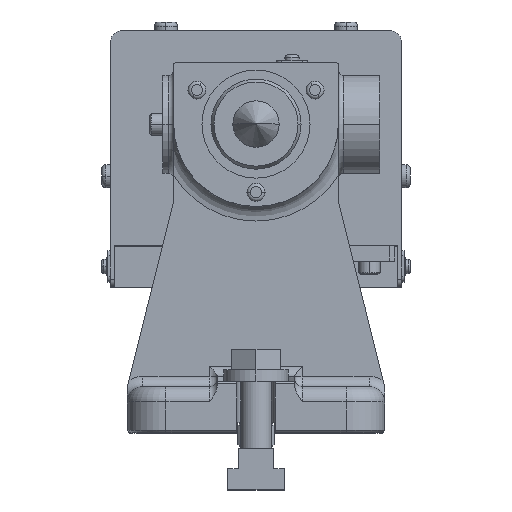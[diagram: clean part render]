
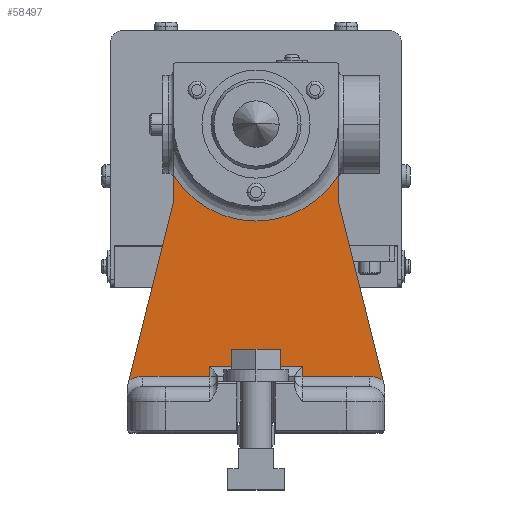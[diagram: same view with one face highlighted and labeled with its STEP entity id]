
A CAD part, top view. The second image highlights one B-rep face of the part: STEP entity #58497.
In plain terms, the highlighted planar face has unit normal (0, 0, 1) as drawn and (-1, 0, 0) by its records, which use the part's own axes.
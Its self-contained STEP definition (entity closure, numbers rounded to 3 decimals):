
#166 = CARTESIAN_POINT ( 'NONE',  ( 25., 120., 0. ) ) ;
#505 = CARTESIAN_POINT ( 'NONE',  ( 25., 159., -32. ) ) ;
#879 = CIRCLE ( 'NONE', #16455, 10. ) ;
#934 = DIRECTION ( 'NONE',  ( 1., 0., 0. ) ) ;
#2130 = LINE ( 'NONE', #33040, #27785 ) ;
#2702 = CARTESIAN_POINT ( 'NONE',  ( 25., 20.42, 49.395 ) ) ;
#3134 = CARTESIAN_POINT ( 'NONE',  ( 25., 88.806, 32.299 ) ) ;
#3136 = CARTESIAN_POINT ( 'NONE',  ( 25., 91.231, -32. ) ) ;
#3677 = VERTEX_POINT ( 'NONE', #23943 ) ;
#4551 = ORIENTED_EDGE ( 'NONE', *, *, #26302, .T. ) ;
#5639 = DIRECTION ( 'NONE',  ( 0., 0., -1. ) ) ;
#6615 = ORIENTED_EDGE ( 'NONE', *, *, #70157, .F. ) ;
#6959 = VERTEX_POINT ( 'NONE', #31846 ) ;
#7299 = CIRCLE ( 'NONE', #12182, 10. ) ;
#7552 = CARTESIAN_POINT ( 'NONE',  ( 25., 174.235, 10.941 ) ) ;
#7566 = EDGE_CURVE ( 'NONE', #16238, #42191, #27008, .T. ) ;
#9040 = DIRECTION ( 'NONE',  ( 1., 0., 0. ) ) ;
#9123 = CARTESIAN_POINT ( 'NONE',  ( 25., 22., -50. ) ) ;
#10361 = VERTEX_POINT ( 'NONE', #32104 ) ;
#10636 = ORIENTED_EDGE ( 'NONE', *, *, #7566, .F. ) ;
#11332 = EDGE_CURVE ( 'NONE', #3677, #47321, #55522, .T. ) ;
#11339 = EDGE_CURVE ( 'NONE', #27277, #54212, #26281, .T. ) ;
#11619 = CARTESIAN_POINT ( 'NONE',  ( 25., 22., -18. ) ) ;
#11713 = VECTOR ( 'NONE', #56525, 1000. ) ;
#12182 = AXIS2_PLACEMENT_3D ( 'NONE', #25071, #63470, #30537 ) ;
#12673 = VECTOR ( 'NONE', #28250, 1000. ) ;
#12791 = EDGE_CURVE ( 'NONE', #16238, #6959, #879, .T. ) ;
#12994 = EDGE_CURVE ( 'NONE', #19760, #10361, #15367, .T. ) ;
#13543 = ORIENTED_EDGE ( 'NONE', *, *, #11332, .T. ) ;
#13763 = VERTEX_POINT ( 'NONE', #52830 ) ;
#15367 = CIRCLE ( 'NONE', #29750, 37.657 ) ;
#16238 = VERTEX_POINT ( 'NONE', #3134 ) ;
#16267 = ORIENTED_EDGE ( 'NONE', *, *, #59747, .T. ) ;
#16455 = AXIS2_PLACEMENT_3D ( 'NONE', #41854, #9040, #47359 ) ;
#16605 = EDGE_CURVE ( 'NONE', #48226, #27277, #20982, .T. ) ;
#19126 = CARTESIAN_POINT ( 'NONE',  ( 25., 91.231, -42. ) ) ;
#19760 = VERTEX_POINT ( 'NONE', #60774 ) ;
#20982 = CIRCLE ( 'NONE', #26328, 10. ) ;
#21352 = VECTOR ( 'NONE', #38362, 1000. ) ;
#21439 = AXIS2_PLACEMENT_3D ( 'NONE', #70800, #54503, #21540 ) ;
#21540 = DIRECTION ( 'NONE',  ( 0., 0., -1. ) ) ;
#21911 = VECTOR ( 'NONE', #63809, 1000. ) ;
#22338 = DIRECTION ( 'NONE',  ( 0., -1., 0. ) ) ;
#23943 = CARTESIAN_POINT ( 'NONE',  ( 25., 26., 18. ) ) ;
#24652 = DIRECTION ( 'NONE',  ( 0., 0., -1. ) ) ;
#25071 = CARTESIAN_POINT ( 'NONE',  ( 25., 12., 44. ) ) ;
#25291 = VECTOR ( 'NONE', #34792, 1000. ) ;
#25507 = LINE ( 'NONE', #61148, #12673 ) ;
#26281 = LINE ( 'NONE', #29083, #11713 ) ;
#26302 = EDGE_CURVE ( 'NONE', #32449, #13763, #65044, .T. ) ;
#26328 = AXIS2_PLACEMENT_3D ( 'NONE', #33676, #934, #39224 ) ;
#27008 = LINE ( 'NONE', #7552, #25291 ) ;
#27277 = VERTEX_POINT ( 'NONE', #45652 ) ;
#27676 = EDGE_CURVE ( 'NONE', #19760, #6959, #2130, .T. ) ;
#27785 = VECTOR ( 'NONE', #22338, 1000. ) ;
#28250 = DIRECTION ( 'NONE',  ( 0., 1., 0. ) ) ;
#28855 = CARTESIAN_POINT ( 'NONE',  ( 25., 159., 18. ) ) ;
#29083 = CARTESIAN_POINT ( 'NONE',  ( 25., 22., -50. ) ) ;
#29750 = AXIS2_PLACEMENT_3D ( 'NONE', #166, #38406, #5639 ) ;
#30358 = ORIENTED_EDGE ( 'NONE', *, *, #27676, .F. ) ;
#30366 = EDGE_CURVE ( 'NONE', #65868, #3677, #65133, .T. ) ;
#30537 = DIRECTION ( 'NONE',  ( 0., 0., -1. ) ) ;
#31846 = CARTESIAN_POINT ( 'NONE',  ( 25., 91.231, 32. ) ) ;
#32104 = CARTESIAN_POINT ( 'NONE',  ( 25., 100.15, -32. ) ) ;
#32449 = VERTEX_POINT ( 'NONE', #3136 ) ;
#32534 = EDGE_CURVE ( 'NONE', #47321, #66204, #63995, .T. ) ;
#32812 = CARTESIAN_POINT ( 'NONE',  ( 25., 26., -24.016 ) ) ;
#33040 = CARTESIAN_POINT ( 'NONE',  ( 25., 159., 32. ) ) ;
#33676 = CARTESIAN_POINT ( 'NONE',  ( 25., 12., -44. ) ) ;
#34792 = DIRECTION ( 'NONE',  ( 0., -0.97, 0.243 ) ) ;
#35904 = CARTESIAN_POINT ( 'NONE',  ( 25., 150.706, -16.824 ) ) ;
#38009 = EDGE_CURVE ( 'NONE', #66204, #42191, #7299, .T. ) ;
#38362 = DIRECTION ( 'NONE',  ( 0., 0., 1. ) ) ;
#38406 = DIRECTION ( 'NONE',  ( 1., 0., 0. ) ) ;
#39224 = DIRECTION ( 'NONE',  ( 0., 0., -1. ) ) ;
#40856 = VECTOR ( 'NONE', #50977, 1000. ) ;
#41854 = CARTESIAN_POINT ( 'NONE',  ( 25., 91.231, 42. ) ) ;
#42191 = VERTEX_POINT ( 'NONE', #2702 ) ;
#42258 = ORIENTED_EDGE ( 'NONE', *, *, #38009, .T. ) ;
#42593 = EDGE_CURVE ( 'NONE', #32449, #10361, #49238, .T. ) ;
#43333 = PLANE ( 'NONE',  #21439 ) ;
#44730 = CARTESIAN_POINT ( 'NONE',  ( 25., 22., 18. ) ) ;
#45652 = CARTESIAN_POINT ( 'NONE',  ( 25., 22., -44. ) ) ;
#47321 = VERTEX_POINT ( 'NONE', #44730 ) ;
#47359 = DIRECTION ( 'NONE',  ( 0., 0., -1. ) ) ;
#47510 = VECTOR ( 'NONE', #54972, 1000. ) ;
#48226 = VERTEX_POINT ( 'NONE', #65821 ) ;
#49238 = LINE ( 'NONE', #505, #47510 ) ;
#49563 = ORIENTED_EDGE ( 'NONE', *, *, #30366, .T. ) ;
#49710 = ORIENTED_EDGE ( 'NONE', *, *, #12994, .T. ) ;
#50650 = CARTESIAN_POINT ( 'NONE',  ( 25., 26., -18. ) ) ;
#50977 = DIRECTION ( 'NONE',  ( 0., -1., 0. ) ) ;
#52624 = ORIENTED_EDGE ( 'NONE', *, *, #11339, .T. ) ;
#52830 = CARTESIAN_POINT ( 'NONE',  ( 25., 88.806, -32.299 ) ) ;
#54212 = VERTEX_POINT ( 'NONE', #11619 ) ;
#54503 = DIRECTION ( 'NONE',  ( 1., 0., 0. ) ) ;
#54972 = DIRECTION ( 'NONE',  ( 0., 1., 0. ) ) ;
#55522 = LINE ( 'NONE', #28855, #40856 ) ;
#56525 = DIRECTION ( 'NONE',  ( 0., 0., 1. ) ) ;
#56726 = ORIENTED_EDGE ( 'NONE', *, *, #42593, .F. ) ;
#56881 = VECTOR ( 'NONE', #63339, 1000. ) ;
#57063 = ORIENTED_EDGE ( 'NONE', *, *, #16605, .T. ) ;
#57576 = DIRECTION ( 'NONE',  ( 1., 0., 0. ) ) ;
#58497 = ADVANCED_FACE ( 'NONE', ( #65291 ), #43333, .F. ) ;
#59047 = ORIENTED_EDGE ( 'NONE', *, *, #12791, .T. ) ;
#59747 = EDGE_CURVE ( 'NONE', #54212, #65868, #25507, .T. ) ;
#60774 = CARTESIAN_POINT ( 'NONE',  ( 25., 100.15, 32. ) ) ;
#61148 = CARTESIAN_POINT ( 'NONE',  ( 25., 159., -18. ) ) ;
#62027 = EDGE_LOOP ( 'NONE', ( #52624, #16267, #49563, #13543, #64613, #42258, #10636, #59047, #30358, #49710, #56726, #4551, #6615, #57063 ) ) ;
#63339 = DIRECTION ( 'NONE',  ( 0., 0.97, 0.243 ) ) ;
#63470 = DIRECTION ( 'NONE',  ( 1., 0., 0. ) ) ;
#63809 = DIRECTION ( 'NONE',  ( 0., 0., 1. ) ) ;
#63995 = LINE ( 'NONE', #9123, #21911 ) ;
#64528 = CARTESIAN_POINT ( 'NONE',  ( 25., 22., 44. ) ) ;
#64613 = ORIENTED_EDGE ( 'NONE', *, *, #32534, .T. ) ;
#65044 = CIRCLE ( 'NONE', #70296, 10. ) ;
#65133 = LINE ( 'NONE', #32812, #21352 ) ;
#65291 = FACE_OUTER_BOUND ( 'NONE', #62027, .T. ) ;
#65821 = CARTESIAN_POINT ( 'NONE',  ( 25., 20.42, -49.395 ) ) ;
#65868 = VERTEX_POINT ( 'NONE', #50650 ) ;
#66204 = VERTEX_POINT ( 'NONE', #64528 ) ;
#69728 = LINE ( 'NONE', #35904, #56881 ) ;
#70157 = EDGE_CURVE ( 'NONE', #48226, #13763, #69728, .T. ) ;
#70296 = AXIS2_PLACEMENT_3D ( 'NONE', #19126, #57576, #24652 ) ;
#70800 = CARTESIAN_POINT ( 'NONE',  ( 25., 159., -50. ) ) ;
